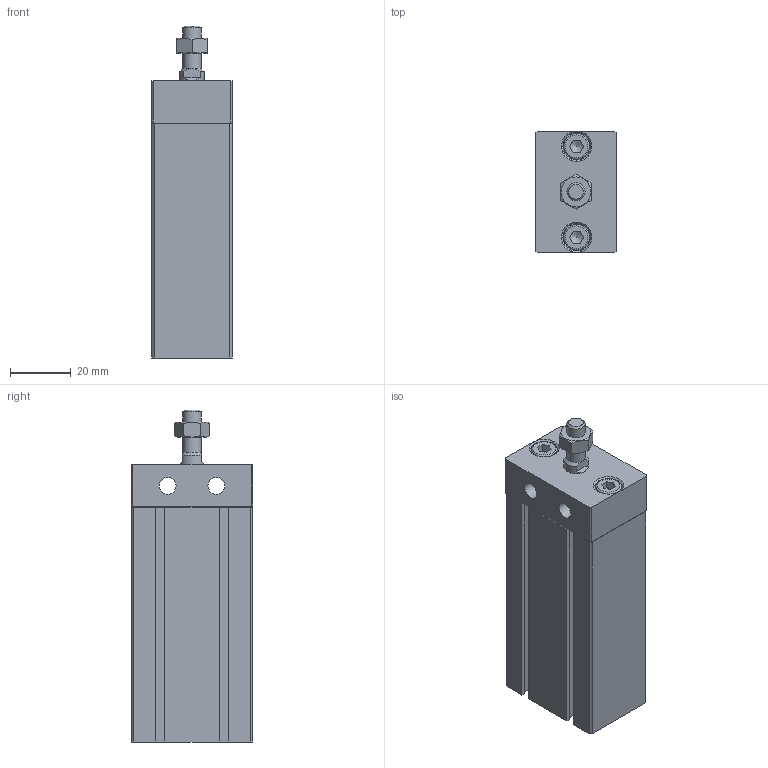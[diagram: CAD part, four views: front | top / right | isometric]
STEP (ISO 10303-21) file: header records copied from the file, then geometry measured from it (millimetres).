
FILE_DESCRIPTION((''),'2;1');
FILE_NAME('I:\3D電子目錄\氣缸\ND\ND\ND20-B\ND20x50-B.stp','2007-07-23T20:29:26',('Administrator'),(''),'Autodesk Inventor 11','Autodesk Inventor 11','');
FILE_SCHEMA(('AUTOMOTIVE_DESIGN { 1 0 10303 214 1 1 1 1 }'));
Length unit declared in the file: millimetre
Products named in the file (4): ND20-B; R 形環 22; ISO 4762 M5 x 12
Assembly tree (4 placements, depth 2):
  ND20-B
    ND20-B
    R 形環 22
    ISO 4762 M5 x 12  x2
Bounding box: 26.4 x 40.1 x 109.5 mm (x, y, z)
Volume: 87533.4 mm3; surface area: 22615.7 mm2
Topology: 5 solids, 5 shells, 170 faces, 420 edges, 269 vertices
Faces by surface type: plane 109, cylinder 28, cone 16, bspline 14, torus 3
Full cylindrical faces by diameter (mm): 1.5 x4, 5 x2, 5.5 x2, 6 x2, 8.5 x2, 9 x2, 13 x1, 21 x1
Entity records: 4613 total; most frequent: CARTESIAN_POINT 980, DIRECTION 710, ORIENTED_EDGE 692, EDGE_CURVE 346, VERTEX_POINT 244, VECTOR 238, LINE 238, AXIS2_PLACEMENT_3D 236
